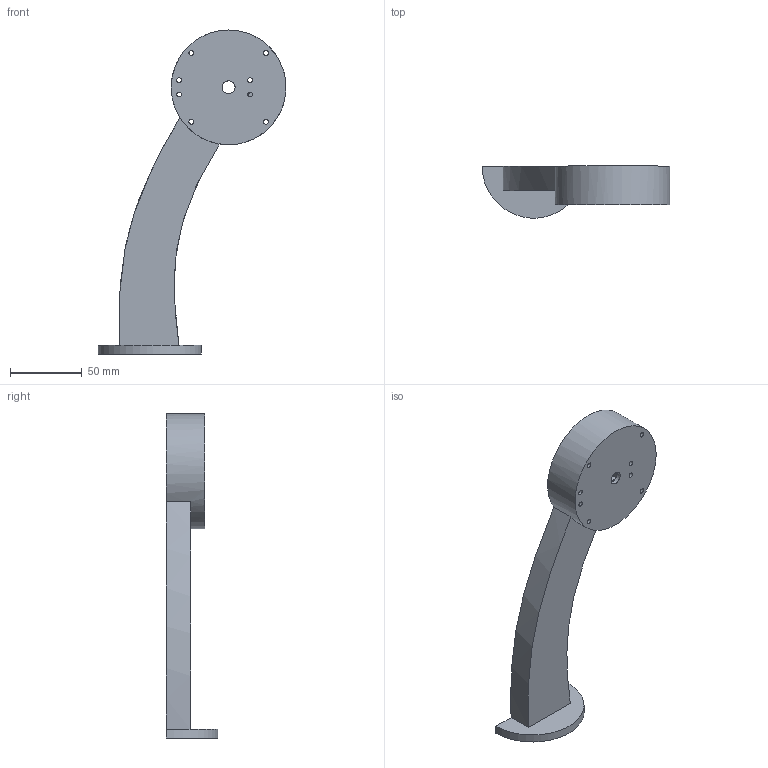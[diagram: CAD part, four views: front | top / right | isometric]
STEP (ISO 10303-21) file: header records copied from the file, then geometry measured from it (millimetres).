
FILE_DESCRIPTION(('Base splice and hand/dowel native rebuild. P1 head/arm retained as imported base geometry.'),'2;1');
FILE_NAME('L_CURVED_ARM_CORE_FRONT.step','',(''),(''),'SolidCraft','SolidCraft','');
FILE_SCHEMA(('AP242_MANAGED_MODEL_BASED_3D_ENGINEERING_MIM_LF { 1 0 10303 442 1 1 4 }'));
Length unit declared in the file: millimetre
Products named in the file (1): L_CURVED_ARM_CORE_FRONT
Bounding box: 130.95 x 35.93 x 226 mm (x, y, z)
Volume: 82741.4 mm3; surface area: 54407.9 mm2
Topology: 1 solids, 1 shells, 68 faces, 236 edges, 168 vertices
Faces by surface type: plane 34, cylinder 25, bspline 9
Full cylindrical faces by diameter (mm): 3.4 x8, 9 x1, 80 x1
Entity records: 2850 total; most frequent: CARTESIAN_POINT 1379, ORIENTED_EDGE 472, EDGE_CURVE 236, VERTEX_POINT 168, LINE 104, EDGE_LOOP 86, FACE_BOUND 86, ADVANCED_FACE 68
